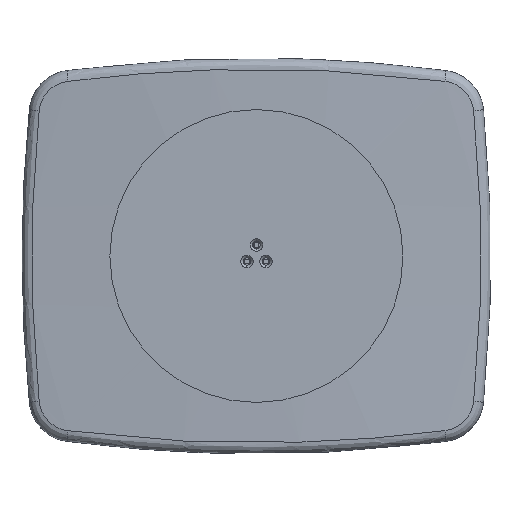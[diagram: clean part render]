
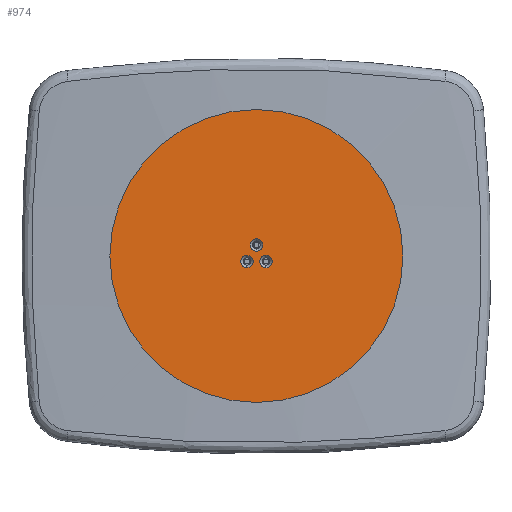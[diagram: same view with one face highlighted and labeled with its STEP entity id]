
A CAD part, front view. The second image highlights one B-rep face of the part: STEP entity #974.
In plain terms, the highlighted planar face has unit normal (0, -1, 0).
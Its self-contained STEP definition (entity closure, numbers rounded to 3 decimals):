
#137 = CARTESIAN_POINT ( 'NONE',  ( 0., 0., -200. ) ) ;
#343 = CARTESIAN_POINT ( 'NONE',  ( 0., 0., 0. ) ) ;
#544 = FACE_BOUND ( 'NONE', #3090, .T. ) ;
#590 = DIRECTION ( 'NONE',  ( 0., 1., 0. ) ) ;
#605 = CARTESIAN_POINT ( 'NONE',  ( 0., 0., 15. ) ) ;
#626 = CARTESIAN_POINT ( 'NONE',  ( 12.99, 0., 1. ) ) ;
#673 = DIRECTION ( 'NONE',  ( 0., 0., 1. ) ) ;
#738 = DIRECTION ( 'NONE',  ( 0., 1., 0. ) ) ;
#815 = EDGE_CURVE ( 'NONE', #1588, #5133, #4839, .T. ) ;
#887 = CIRCLE ( 'NONE', #1559, 8.5 ) ;
#917 = FACE_BOUND ( 'NONE', #4032, .T. ) ;
#970 = VERTEX_POINT ( 'NONE', #2924 ) ;
#974 = ADVANCED_FACE ( 'NONE', ( #4496, #917, #544, #2896 ), #3781, .F. ) ;
#1096 = CARTESIAN_POINT ( 'NONE',  ( -12.99, 0., 1. ) ) ;
#1206 = DIRECTION ( 'NONE',  ( 0., 0., 1. ) ) ;
#1342 = ORIENTED_EDGE ( 'NONE', *, *, #4176, .F. ) ;
#1391 = CARTESIAN_POINT ( 'NONE',  ( -12.99, 0., -7.5 ) ) ;
#1409 = EDGE_CURVE ( 'NONE', #5185, #3257, #3746, .T. ) ;
#1413 = ORIENTED_EDGE ( 'NONE', *, *, #4944, .F. ) ;
#1430 = CARTESIAN_POINT ( 'NONE',  ( 0., 0., 200. ) ) ;
#1470 = AXIS2_PLACEMENT_3D ( 'NONE', #1391, #590, #2539 ) ;
#1495 = AXIS2_PLACEMENT_3D ( 'NONE', #343, #4402, #2066 ) ;
#1559 = AXIS2_PLACEMENT_3D ( 'NONE', #2798, #4377, #1206 ) ;
#1588 = VERTEX_POINT ( 'NONE', #2316 ) ;
#1638 = DIRECTION ( 'NONE',  ( 0., 1., 0. ) ) ;
#1697 = ORIENTED_EDGE ( 'NONE', *, *, #3626, .T. ) ;
#1957 = DIRECTION ( 'NONE',  ( 0., 0., 1. ) ) ;
#2066 = DIRECTION ( 'NONE',  ( 0., 0., 1. ) ) ;
#2118 = VERTEX_POINT ( 'NONE', #4965 ) ;
#2216 = DIRECTION ( 'NONE',  ( 0., 1., 0. ) ) ;
#2316 = CARTESIAN_POINT ( 'NONE',  ( 12.99, 0., -16. ) ) ;
#2332 = EDGE_LOOP ( 'NONE', ( #1413, #1342 ) ) ;
#2335 = EDGE_CURVE ( 'NONE', #3257, #5185, #887, .T. ) ;
#2362 = EDGE_LOOP ( 'NONE', ( #2682, #4615 ) ) ;
#2460 = DIRECTION ( 'NONE',  ( 0., 0., 1. ) ) ;
#2539 = DIRECTION ( 'NONE',  ( 0., 0., 1. ) ) ;
#2586 = AXIS2_PLACEMENT_3D ( 'NONE', #4921, #5079, #673 ) ;
#2682 = ORIENTED_EDGE ( 'NONE', *, *, #815, .T. ) ;
#2798 = CARTESIAN_POINT ( 'NONE',  ( -12.99, 0., -7.5 ) ) ;
#2809 = CARTESIAN_POINT ( 'NONE',  ( 0., 0., 0. ) ) ;
#2819 = DIRECTION ( 'NONE',  ( 0., 1., 0. ) ) ;
#2839 = AXIS2_PLACEMENT_3D ( 'NONE', #3707, #2819, #4395 ) ;
#2896 = FACE_OUTER_BOUND ( 'NONE', #2332, .T. ) ;
#2924 = CARTESIAN_POINT ( 'NONE',  ( 0., 0., 6.5 ) ) ;
#2932 = EDGE_CURVE ( 'NONE', #5133, #1588, #3912, .T. ) ;
#3018 = AXIS2_PLACEMENT_3D ( 'NONE', #2809, #1638, #4876 ) ;
#3090 = EDGE_LOOP ( 'NONE', ( #1697, #4051 ) ) ;
#3104 = AXIS2_PLACEMENT_3D ( 'NONE', #605, #2216, #3811 ) ;
#3133 = VERTEX_POINT ( 'NONE', #137 ) ;
#3184 = AXIS2_PLACEMENT_3D ( 'NONE', #3732, #4979, #2460 ) ;
#3188 = ORIENTED_EDGE ( 'NONE', *, *, #1409, .T. ) ;
#3248 = ORIENTED_EDGE ( 'NONE', *, *, #2335, .T. ) ;
#3257 = VERTEX_POINT ( 'NONE', #3441 ) ;
#3352 = EDGE_CURVE ( 'NONE', #2118, #970, #5008, .T. ) ;
#3441 = CARTESIAN_POINT ( 'NONE',  ( -12.99, 0., -16. ) ) ;
#3507 = AXIS2_PLACEMENT_3D ( 'NONE', #4326, #738, #1957 ) ;
#3626 = EDGE_CURVE ( 'NONE', #970, #2118, #4487, .T. ) ;
#3707 = CARTESIAN_POINT ( 'NONE',  ( 0., 0., 15. ) ) ;
#3732 = CARTESIAN_POINT ( 'NONE',  ( 0., 0., 0. ) ) ;
#3746 = CIRCLE ( 'NONE', #1470, 8.5 ) ;
#3781 = PLANE ( 'NONE',  #3184 ) ;
#3811 = DIRECTION ( 'NONE',  ( 0., 0., 1. ) ) ;
#3912 = CIRCLE ( 'NONE', #3507, 8.5 ) ;
#4028 = VERTEX_POINT ( 'NONE', #1430 ) ;
#4032 = EDGE_LOOP ( 'NONE', ( #3248, #3188 ) ) ;
#4051 = ORIENTED_EDGE ( 'NONE', *, *, #3352, .T. ) ;
#4176 = EDGE_CURVE ( 'NONE', #4028, #3133, #4850, .T. ) ;
#4326 = CARTESIAN_POINT ( 'NONE',  ( 12.99, 0., -7.5 ) ) ;
#4377 = DIRECTION ( 'NONE',  ( 0., 1., 0. ) ) ;
#4395 = DIRECTION ( 'NONE',  ( 0., 0., 1. ) ) ;
#4402 = DIRECTION ( 'NONE',  ( 0., 1., 0. ) ) ;
#4487 = CIRCLE ( 'NONE', #3104, 8.5 ) ;
#4496 = FACE_BOUND ( 'NONE', #2362, .T. ) ;
#4615 = ORIENTED_EDGE ( 'NONE', *, *, #2932, .T. ) ;
#4839 = CIRCLE ( 'NONE', #2586, 8.5 ) ;
#4850 = CIRCLE ( 'NONE', #3018, 200. ) ;
#4876 = DIRECTION ( 'NONE',  ( 0., 0., 1. ) ) ;
#4921 = CARTESIAN_POINT ( 'NONE',  ( 12.99, 0., -7.5 ) ) ;
#4944 = EDGE_CURVE ( 'NONE', #3133, #4028, #5015, .T. ) ;
#4965 = CARTESIAN_POINT ( 'NONE',  ( 0., 0., 23.5 ) ) ;
#4979 = DIRECTION ( 'NONE',  ( 0., 1., 0. ) ) ;
#5008 = CIRCLE ( 'NONE', #2839, 8.5 ) ;
#5015 = CIRCLE ( 'NONE', #1495, 200. ) ;
#5079 = DIRECTION ( 'NONE',  ( 0., 1., 0. ) ) ;
#5133 = VERTEX_POINT ( 'NONE', #626 ) ;
#5185 = VERTEX_POINT ( 'NONE', #1096 ) ;
